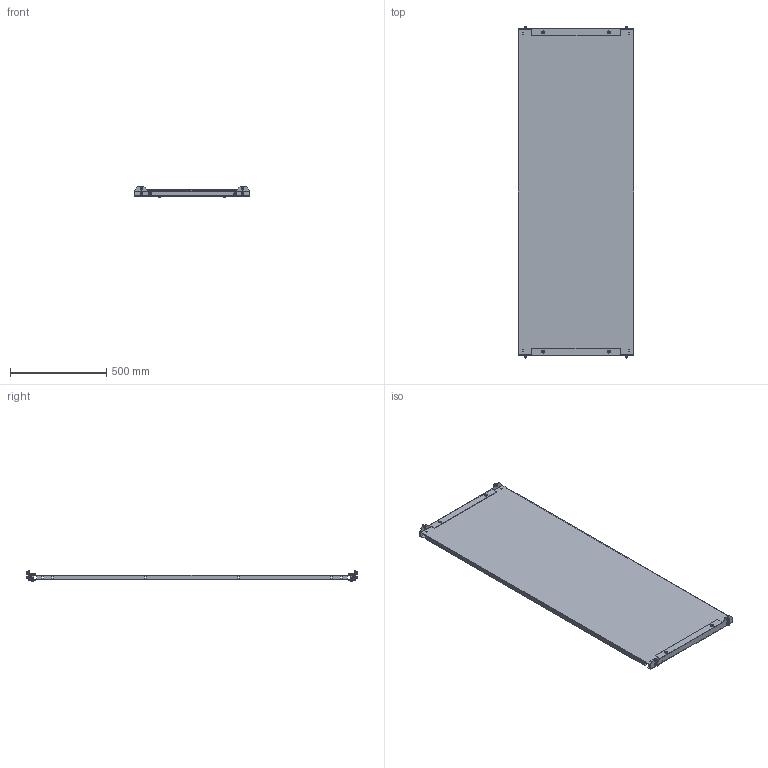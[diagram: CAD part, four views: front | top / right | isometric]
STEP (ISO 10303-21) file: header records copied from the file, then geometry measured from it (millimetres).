
FILE_DESCRIPTION(('Open CASCADE Model'),'2;1');
FILE_NAME('Open CASCADE Shape Model','2025-02-13T16:49:45',('Author'),( 'Open CASCADE'),'Open CASCADE STEP processor 7.8','Open CASCADE 7.8' ,'Unknown');
FILE_SCHEMA(('AUTOMOTIVE_DESIGN { 1 0 10303 214 1 1 1 1 }'));
Length unit declared in the file: millimetre
Products named in the file (11): Compound1; Solid1; Compound2; Solid2; Solid3; Solid4; Solid5; Solid6; Solid7; Solid8; Solid9
Assembly tree (38 placements, depth 3):
  Compound1
    Solid1
    Compound2  x2
      Solid2
      Solid3
    Solid4  x4
    Solid5  x4
    Solid6  x4
    Solid7  x4
    Solid8  x8
    Solid9  x8
Bounding box: 600 x 1726 x 54.5 mm (x, y, z)
Volume: 3230466.8 mm3; surface area: 2613360.7 mm2
Topology: 39 solids, 39 shells, 2600 faces, 7022 edges, 4436 vertices
Faces by surface type: plane 1298, cylinder 702, bspline 304, cone 164, torus 128, sphere 4
Full cylindrical faces by diameter (mm): 5 x12, 6 x16, 6.5 x8, 6.8 x4, 8 x4, 8.3 x8, 8.4 x4, 9.5 x8, 10.1 x4, 10.44 x4, 10.5 x4, 11.57 x8, 12 x4, 12.65 x4, 16 x12, 16.55 x4
Entity records: 22514 total; most frequent: CARTESIAN_POINT 6003, ORIENTED_EDGE 3512, DIRECTION 3182, EDGE_CURVE 1756, LINE 1150, VECTOR 1150, VERTEX_POINT 1131, AXIS2_PLACEMENT_3D 1016
